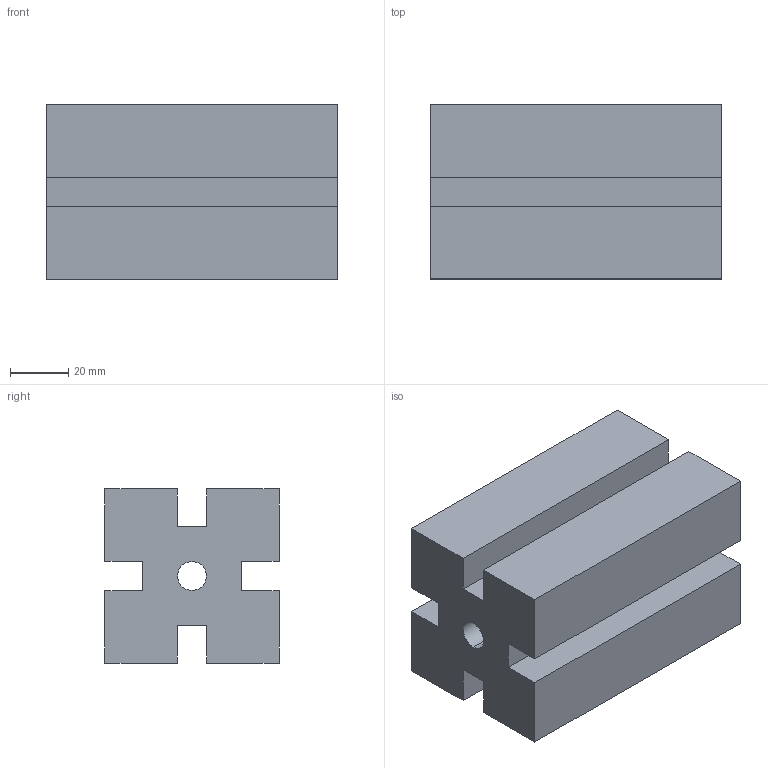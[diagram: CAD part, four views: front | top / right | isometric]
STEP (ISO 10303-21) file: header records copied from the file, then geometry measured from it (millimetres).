
FILE_DESCRIPTION(('no description'),'unknown implementation level');
FILE_NAME('3842992443_14370565.stp',' ',('Bosch Rexroth AG'),('CADClick - KiM GmbH - www.kimweb.de'),'unknown preprocess','ACIS','unknown authorization');
FILE_SCHEMA(('automotive_design'));
Length unit declared in the file: millimetre
Products named in the file (1): 1
Bounding box: 100 x 60 x 60 mm (x, y, z)
Volume: 300146 mm3; surface area: 43544.5 mm2
Topology: 1 solids, 1 shells, 24 faces, 66 edges, 44 vertices
Faces by surface type: plane 22, cylinder 2
Entity records: 1524 total; most frequent: STYLED_ITEM 135, PRESENTATION_STYLE_ASSIGNMENT 135, CARTESIAN_POINT 135, COLOUR_RGB 135, ORIENTED_EDGE 132, DIRECTION 120, EDGE_CURVE 66, CURVE_STYLE 66
